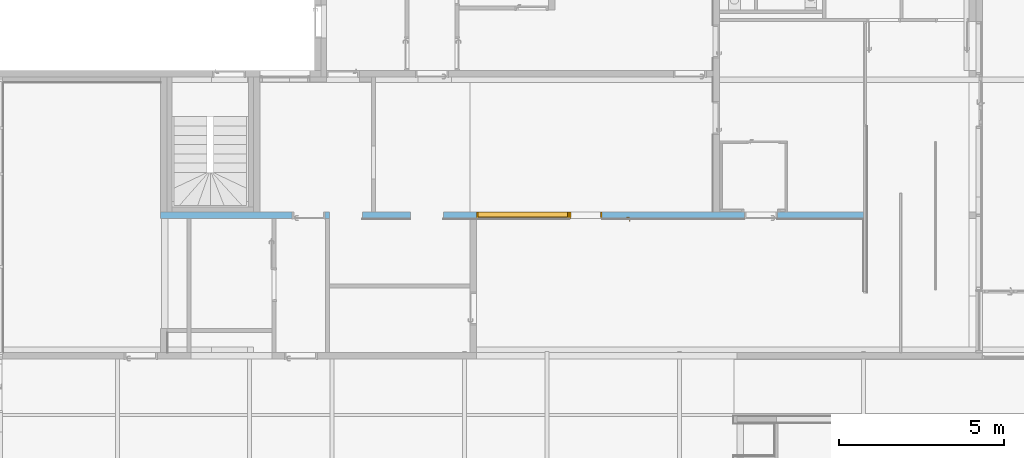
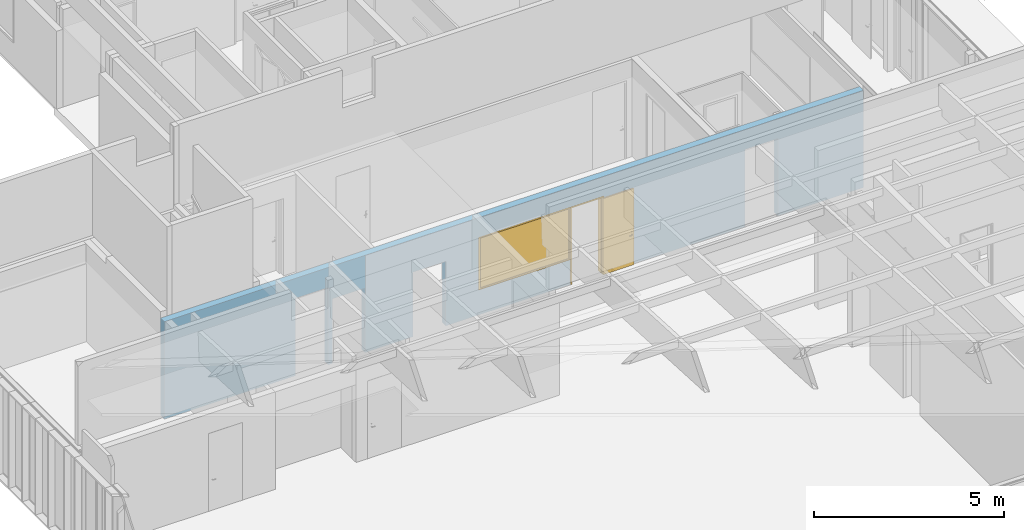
# One storey, part 188 of 240: 1 door, 1 window, 6 openings, plus 1 element that does not belong to this part.
"""IFC2X3 building model written with IfcOpenShell, lengths in centimetres."""

from ifc_helpers import new_model, entity, si_unit, converted_unit, derived_unit, direction, frame, frame_2d, origin, origin_2d_with_axis, place, context, subcontext, project, spatial, rectangle, extrude, faceted_brep, source, transform, mapped, material, material_list, layer, layer_set, layer_usage, type_object, type_shapes, element, fill, save


model = new_model("IFC2X3")

# Units and contexts
model_context = context("Model", 3, precision=0.001, world=origin(), true_north=direction((6.12303176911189e-17, 1.0)))
body_context = subcontext(model_context, "Body", "Model", "MODEL_VIEW")
ifc_project = project(units=[si_unit("LENGTHUNIT", "METRE", prefix="CENTI"), si_unit("AREAUNIT", "SQUARE_METRE"), si_unit("VOLUMEUNIT", "CUBIC_METRE"), converted_unit("PLANEANGLEUNIT", "DEGREE", entity("IfcRatioMeasure", 0.0174532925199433), si_unit("PLANEANGLEUNIT", "RADIAN"), dimensions=[0, 0, 0, 0, 0, 0, 0]), si_unit("MASSUNIT", "GRAM", prefix="KILO"), derived_unit("MASSDENSITYUNIT", [(si_unit("MASSUNIT", "GRAM", prefix="KILO"), 1), (si_unit("LENGTHUNIT", "METRE"), -3)]), si_unit("TIMEUNIT", "SECOND"), si_unit("FREQUENCYUNIT", "HERTZ"), si_unit("THERMODYNAMICTEMPERATUREUNIT", "DEGREE_CELSIUS"), derived_unit("THERMALTRANSMITTANCEUNIT", [(si_unit("MASSUNIT", "GRAM", prefix="KILO"), 1), (si_unit("THERMODYNAMICTEMPERATUREUNIT", "KELVIN"), -1), (si_unit("TIMEUNIT", "SECOND"), -3)]), derived_unit("VOLUMETRICFLOWRATEUNIT", [(si_unit("LENGTHUNIT", "METRE"), 3), (si_unit("TIMEUNIT", "SECOND"), -1)]), si_unit("ELECTRICCURRENTUNIT", "AMPERE"), si_unit("ELECTRICVOLTAGEUNIT", "VOLT"), si_unit("POWERUNIT", "WATT"), si_unit("FORCEUNIT", "NEWTON", prefix="KILO"), si_unit("ILLUMINANCEUNIT", "LUX"), si_unit("LUMINOUSFLUXUNIT", "LUMEN"), si_unit("LUMINOUSINTENSITYUNIT", "CANDELA"), derived_unit("USERDEFINED", [(si_unit("MASSUNIT", "GRAM", prefix="KILO"), -1), (si_unit("LENGTHUNIT", "METRE"), -2), (si_unit("TIMEUNIT", "SECOND"), 3), (si_unit("LUMINOUSFLUXUNIT", "LUMEN"), 1)]), derived_unit("LINEARVELOCITYUNIT", [(si_unit("LENGTHUNIT", "METRE"), 1), (si_unit("TIMEUNIT", "SECOND"), -1)]), si_unit("PRESSUREUNIT", "PASCAL"), derived_unit("USERDEFINED", [(si_unit("LENGTHUNIT", "METRE"), -2), (si_unit("MASSUNIT", "GRAM", prefix="KILO"), 1), (si_unit("TIMEUNIT", "SECOND"), -2)])], contexts=[model_context])

# Site, building, storey
site_placement = place(None, frame((-2781.94577612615, 7442.24238424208, 0.0)))
site = spatial("IfcSite", under=ifc_project, at=site_placement, Name="Default", CompositionType="ELEMENT")
building_placement = place(site_placement, origin())
building = spatial("IfcBuilding", under=site, at=building_placement, CompositionType="ELEMENT")
storey_placement = place(building_placement, origin())
storey = spatial("IfcBuildingStorey", under=building, at=storey_placement, Name="N00 - COO", CompositionType="ELEMENT", Elevation=0.0)

# Wall, openings, door, window
ifc_material_1 = material(Name="01 - Maçonnerie")
ifc_layer = layer(ifc_material_1, 20.0)
ifc_layer_set = layer_set([ifc_layer], Name="Mur de base:04 - Structure - béton - 20cm")
ifc_layer_usage = layer_usage(ifc_layer_set, "AXIS2", "NEGATIVE", 10.0)
wall_type = type_object("IfcWallType", Name="Mur de base:04 - Structure - béton - 20cm", PredefinedType="STANDARD", material=ifc_layer_set)
wall_placement = place(building_placement, frame((-9241.932180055, -3790.71966115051, 0.0), z_axis=(0.0, 0.0, 1.0), x_axis=(-1.0, 0.0, 0.0)))
wall = element("IfcWallStandardCase", 1, at=wall_placement, inside=storey, type_object=wall_type, material=ifc_layer_usage, Name="Mur de base:04 - Structure - béton - 20cm", ObjectType="Mur de base:04 - Structure - béton - 20cm", context=body_context, shape_type="SweptSolid", body=[
    extrude(rectangle(XDim=2125.55062791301, YDim=19.9999999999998, at=frame_2d((1062.77531395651, -2.05169214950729e-13), x_axis=(-1.0, 0.0))), origin(), (0.0, 0.0, 1.0), 313.0),
])
opening_1_placement = place(wall_placement, origin())
element("IfcOpeningElement", 2, at=opening_1_placement, cuts=wall, Name="Mur de base:04 - Structure - béton - 20cm", ObjectType="Opening", context=body_context, shape_type="SweptSolid", body=[
    extrude(rectangle(XDim=207.5, YDim=100.000000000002, at=origin_2d_with_axis()), frame((1565.06781692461, -10.0, 103.75), z_axis=(0.0, 1.0, 0.0), x_axis=(0.0, 0.0, -1.0)), (0.0, 0.0, 1.0), 19.9999999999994),
])
opening_2_placement = place(wall_placement, origin())
element("IfcOpeningElement", 3, at=opening_2_placement, cuts=wall, Name="Mur de base:04 - Structure - béton - 20cm", ObjectType="Opening", context=body_context, shape_type="SweptSolid", body=[
    extrude(rectangle(XDim=207.5, YDim=100.000000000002, at=frame_2d((0.0, 1.73372427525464e-12), x_axis=(1.0, 0.0))), frame((1320.06781692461, -10.0, 103.75), z_axis=(0.0, 1.0, 0.0), x_axis=(0.0, 0.0, -1.0)), (0.0, 0.0, 1.0), 19.9999999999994),
])
opening_3_placement = place(wall_placement, frame((1627.56781692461, -10.0, 0.0)))
element("IfcOpeningElement", 4, at=opening_3_placement, cuts=wall, Name="Int. Simple:PP simple (0.93m x 2.50m):1", ObjectType="Opening", context=body_context, shape_type="SweptSolid", body=[
    extrude(rectangle(XDim=248.500000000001, YDim=99.9999999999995, at=frame_2d((124.250000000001, 50.0), x_axis=(1.0, 0.0))), frame((0.0, 0.0, 0.0), z_axis=(0.0, 1.0, 0.0), x_axis=(0.0, 0.0, 1.0)), (0.0, 0.0, 1.0), 20.0),
])
opening_4_placement = place(wall_placement, frame((790.067816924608, -10.0, 0.0)))
opening_4 = element("IfcOpeningElement", 5, at=opening_4_placement, cuts=wall, Name="Int. Simple:PP (0.93m x 2.50m):1", ObjectType="Opening", context=body_context, shape_type="SweptSolid", body=[
    extrude(rectangle(XDim=248.500000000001, YDim=99.9999999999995, at=frame_2d((124.250000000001, 50.0), x_axis=(1.0, 0.0))), frame((0.0, 0.0, 0.0), z_axis=(0.0, 1.0, 0.0), x_axis=(0.0, 0.0, 1.0)), (0.0, 0.0, 1.0), 20.0),
])
opening_5_placement = place(wall_placement, frame((260.067816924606, -10.0, 0.0)))
element("IfcOpeningElement", 6, at=opening_5_placement, cuts=wall, Name="Int. Simple:PP (0.93m x 2.50m):1", ObjectType="Opening", context=body_context, shape_type="SweptSolid", body=[
    extrude(rectangle(XDim=248.500000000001, YDim=99.9999999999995, at=frame_2d((124.250000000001, 49.9999999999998), x_axis=(1.0, 0.0))), frame((0.0, 0.0, 0.0), z_axis=(0.0, 1.0, 0.0), x_axis=(0.0, 0.0, 1.0)), (0.0, 0.0, 1.0), 20.0),
])
opening_6_placement = place(wall_placement, frame((1170.03255804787, 10.0, 80.0)))
opening_6 = element("IfcOpeningElement", 7, at=opening_6_placement, cuts=wall, Name="châssis intérieur vitré:châssis intérieur vitré self  (h=2.22) 2:1", ObjectType="Opening", context=body_context, shape_type="SweptSolid", body=[
    extrude(rectangle(XDim=170.0, YDim=279.964741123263, at=frame_2d((84.9999999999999, 139.982370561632), x_axis=(1.0, 0.0))), frame((0.0, 0.0, 0.0), z_axis=(0.0, -1.0, 0.0), x_axis=(0.0, 0.0, 1.0)), (0.0, 0.0, 1.0), 20.0),
])
ifc_material_2 = material(Name="Finition Peinture - Blanc satiné")
ifc_material_3 = material(Name="Bois - Panneau de porte")
ifc_material_4 = material(Name="Bois - Cadre de porte")
ifc_material_list_1 = material_list([ifc_material_2, ifc_material_3, ifc_material_4])
ifc_material_list_2 = material_list([ifc_material_2, ifc_material_3, ifc_material_4])
door_style = type_object("IfcDoorStyle", Name="PP (0.93m x 2.50m)", ConstructionType="NOTDEFINED", OperationType="SINGLE_SWING_LEFT", ParameterTakesPrecedence=False, Sizeable=False, material=ifc_material_list_2)
shared_shape_1 = source(origin(), body_context, "Body", "Brep", [
    faceted_brep([(182.464723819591, 0.499999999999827, 86.6003983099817), (181.500000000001, 0.499999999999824, 87.0), (181.500000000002, 0.499999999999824, 108.0), (182.464723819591, 0.499999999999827, 108.399601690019), (183.500000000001, 0.49999999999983, 108.535898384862), (184.535276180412, 0.499999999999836, 108.399601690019), (185.500000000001, 0.499999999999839, 108.0), (185.500000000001, 0.499999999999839, 87.0), (184.535276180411, 0.499999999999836, 86.6003983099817), (183.500000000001, 0.49999999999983, 86.464101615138), (182.464723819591, 0.0, 108.399601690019), (181.500000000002, 0.0, 108.0), (181.500000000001, 0.0, 87.0), (182.464723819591, 0.0, 86.6003983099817), (183.500000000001, 0.0, 86.464101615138), (184.535276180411, 0.0, 86.6003983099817), (185.500000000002, 0.0, 87.0), (185.500000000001, 0.0, 108.0), (184.535276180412, 0.0, 108.399601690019), (183.500000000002, 0.0, 108.535898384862)], [[[0, 1, 2, 3, 4, 5, 6, 7, 8, 9]], [[10, 11, 12, 13, 14, 15, 16, 17, 18, 19]], [[16, 15, 8, 7]], [[8, 15, 14, 9]], [[14, 13, 0, 9]], [[13, 12, 1, 0]], [[2, 1, 12, 11]], [[11, 10, 3, 2]], [[3, 10, 19, 4]], [[19, 18, 5, 4]], [[18, 17, 6, 5]], [[7, 6, 17, 16]]]),
    faceted_brep([(182.464723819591, -4.0, 86.6003983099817), (181.500000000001, -4.0, 87.0), (181.500000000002, -4.0, 108.0), (182.464723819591, -4.0, 108.399601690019), (183.500000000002, -4.0, 108.535898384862), (184.535276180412, -4.0, 108.399601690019), (185.500000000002, -4.0, 108.0), (185.500000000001, -4.0, 87.0), (184.535276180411, -4.0, 86.6003983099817), (183.500000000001, -4.0, 86.464101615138), (182.464723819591, -4.50000000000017, 108.399601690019), (181.500000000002, -4.50000000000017, 108.0), (181.500000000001, -4.50000000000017, 87.0), (182.464723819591, -4.50000000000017, 86.6003983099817), (183.500000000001, -4.50000000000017, 86.464101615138), (184.535276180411, -4.50000000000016, 86.6003983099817), (185.500000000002, -4.50000000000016, 87.0), (185.500000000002, -4.50000000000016, 108.0), (184.535276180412, -4.50000000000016, 108.399601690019), (183.500000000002, -4.50000000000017, 108.535898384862)], [[[0, 1, 2, 3, 4, 5, 6, 7, 8, 9]], [[10, 11, 12, 13, 14, 15, 16, 17, 18, 19]], [[11, 10, 3, 2]], [[3, 10, 19, 4]], [[19, 18, 5, 4]], [[18, 17, 6, 5]], [[7, 6, 17, 16]], [[16, 15, 8, 7]], [[8, 15, 14, 9]], [[14, 13, 0, 9]], [[13, 12, 1, 0]], [[2, 1, 12, 11]]]),
    faceted_brep([(183.702529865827, 0.499999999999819, 100.778044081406), (183.297470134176, 0.499999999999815, 100.778044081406), (182.899999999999, 0.499999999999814, 100.699999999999), (182.9, 0.499999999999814, 99.3000000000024), (183.297470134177, 0.499999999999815, 99.2219559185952), (183.702529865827, 0.499999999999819, 99.221955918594), (184.100000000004, 0.499999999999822, 99.2999999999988), (184.100000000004, 0.499999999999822, 100.7), (184.100000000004, 3.26509507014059, 100.7), (183.702529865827, 3.10045754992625, 100.778044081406), (182.097641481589, 4.70534593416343, 100.778044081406), (181.929860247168, 4.30028620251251, 100.778044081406), (183.297470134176, 2.93267631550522, 100.778044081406), (182.899999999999, 2.76803879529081, 100.7), (182.899999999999, 2.7680387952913, 99.3000000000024), (183.297470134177, 2.93267631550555, 99.2219559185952), (181.929860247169, 4.3002862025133, 99.2219559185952), (182.09764148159, 4.70534593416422, 99.221955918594), (183.702529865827, 3.10045754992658, 99.221955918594), (184.100000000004, 3.26509507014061, 99.2999999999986), (182.262279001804, 5.10281606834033, 100.7), (181.765222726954, 3.90281606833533, 100.7), (181.765222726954, 3.90281606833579, 99.3000000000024), (182.262279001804, 5.10281606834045, 99.2999999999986), (173.498135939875, 5.1028160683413, 99.2999999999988), (173.498135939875, 4.70534593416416, 99.221955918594), (173.498135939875, 4.30028620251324, 99.2219559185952), (173.498135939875, 3.90281606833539, 99.3000000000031), (173.498135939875, 3.90281606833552, 100.7), (173.498135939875, 4.30028620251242, 100.778044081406), (173.498135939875, 4.70534593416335, 100.778044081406), (173.498135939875, 5.10281606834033, 100.699999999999), (178.26923027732, 5.10281606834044, 100.7), (177.713998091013, 4.50281606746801, 100.78786867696), (177.631679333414, 3.90281606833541, 100.7), (177.631679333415, 3.9028160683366, 99.3000000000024), (177.713998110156, 4.50281607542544, 99.2121313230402), (178.269229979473, 5.10281606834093, 99.2999999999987)], [[[0, 1, 2, 3, 4, 5, 6, 7]], [[8, 9, 0, 7]], [[9, 10, 11, 12, 1, 0]], [[12, 13, 2, 1]], [[3, 2, 13, 14]], [[14, 15, 4, 3]], [[15, 16, 17, 18, 5, 4]], [[18, 19, 6, 5]], [[7, 6, 19, 8]], [[20, 10, 9, 8]], [[11, 21, 13, 12]], [[14, 13, 21, 22]], [[22, 16, 15, 14]], [[17, 23, 19, 18]], [[8, 19, 23, 20]], [[24, 25, 26, 27, 28, 29, 30, 31]], [[32, 30, 33]], [[31, 30, 32]], [[10, 20, 32]], [[33, 34, 11]], [[21, 11, 34]], [[34, 29, 28]], [[30, 29, 33]], [[29, 34, 33]], [[10, 32, 33]], [[10, 33, 11]], [[22, 21, 34, 28, 27, 35]], [[35, 26, 36]], [[37, 36, 25]], [[22, 35, 16]], [[35, 27, 26]], [[24, 37, 25]], [[23, 17, 37]], [[37, 17, 36]], [[17, 16, 36]], [[16, 35, 36]], [[25, 36, 26]], [[20, 23, 37, 24, 31, 32]]]),
    faceted_brep([(183.702529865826, -4.50000000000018, 100.778044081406), (184.100000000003, -4.50000000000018, 100.7), (184.100000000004, -4.50000000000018, 99.2999999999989), (183.702529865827, -4.50000000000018, 99.221955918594), (183.297470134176, -4.50000000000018, 99.2219559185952), (182.899999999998, -4.50000000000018, 99.3000000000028), (182.899999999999, -4.50000000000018, 100.7), (183.297470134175, -4.50000000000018, 100.778044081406), (182.899999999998, -6.74852045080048, 99.3000000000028), (182.899999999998, -6.74852045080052, 100.7), (183.297470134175, -6.91315797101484, 100.778044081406), (181.916109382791, -8.29451872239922, 100.778044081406), (182.083890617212, -8.69957845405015, 100.778044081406), (183.702529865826, -7.08093920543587, 100.778044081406), (184.100000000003, -7.24557672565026, 100.7), (184.100000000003, -7.24557672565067, 99.2999999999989), (183.702529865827, -7.08093920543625, 99.221955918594), (182.083890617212, -8.69957845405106, 99.221955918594), (181.916109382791, -8.29451872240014, 99.2219559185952), (183.297470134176, -6.91315797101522, 99.2219559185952), (181.751471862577, -7.89704858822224, 99.3000000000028), (181.751471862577, -7.89704858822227, 100.7), (182.248528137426, -9.09704858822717, 100.7), (182.248528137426, -9.09704858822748, 99.2999999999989), (173.495421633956, -7.89704858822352, 99.3000000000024), (173.495421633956, -8.29451872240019, 99.2219559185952), (173.495421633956, -8.69957845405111, 99.221955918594), (173.495421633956, -9.09704858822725, 99.2999999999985), (173.495421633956, -9.09704858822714, 100.7), (173.495421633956, -8.69957845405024, 100.778044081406), (173.495421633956, -8.29451872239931, 100.778044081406), (173.495421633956, -7.89704858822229, 100.7), (177.623447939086, -7.89704858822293, 99.3000000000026), (177.623446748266, -7.89704858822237, 100.7), (177.705765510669, -8.49704858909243, 100.78786867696), (178.255479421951, -9.09704858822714, 100.7), (178.255479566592, -9.09704858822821, 99.2999999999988), (177.705765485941, -8.49704858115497, 99.2121313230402)], [[[0, 1, 2, 3, 4, 5, 6, 7]], [[6, 5, 8, 9]], [[9, 10, 7, 6]], [[10, 11, 12, 13, 0, 7]], [[13, 14, 1, 0]], [[2, 1, 14, 15]], [[15, 16, 3, 2]], [[16, 17, 18, 19, 4, 3]], [[19, 8, 5, 4]], [[9, 8, 20, 21]], [[21, 11, 10, 9]], [[12, 22, 14, 13]], [[15, 14, 22, 23]], [[23, 17, 16, 15]], [[18, 20, 8, 19]], [[24, 25, 26, 27, 28, 29, 30, 31]], [[21, 20, 32, 24, 31, 33]], [[33, 30, 34]], [[35, 34, 29]], [[21, 33, 11]], [[33, 31, 30]], [[28, 35, 29]], [[22, 12, 35]], [[35, 12, 34]], [[12, 11, 34]], [[11, 33, 34]], [[29, 34, 30]], [[22, 35, 28, 27, 36, 23]], [[36, 26, 37]], [[27, 26, 36]], [[17, 23, 36]], [[37, 32, 18]], [[20, 18, 32]], [[32, 25, 24]], [[26, 25, 37]], [[25, 32, 37]], [[17, 36, 37]], [[17, 37, 18]]]),
    faceted_brep([(189.500000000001, -4.0, 245.0), (96.5000000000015, -4.0, 245.0), (96.5000000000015, -4.0, 0.0), (189.500000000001, -4.0, 0.0), (189.500000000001, 0.0, 245.0), (189.500000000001, 0.0, 0.0), (96.5000000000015, 0.0, 0.0), (96.5000000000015, 0.0, 245.0)], [[[0, 1, 2, 3]], [[4, 5, 6, 7]], [[1, 0, 4, 7]], [[2, 1, 7, 6]], [[3, 2, 6, 5]], [[0, 3, 5, 4]]]),
    faceted_brep([(0.0, 20.0, 0.0), (-1.50000000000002, 20.0, 0.0), (-1.50000000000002, 20.5000000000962, 0.0), (5.0, 20.5000000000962, 0.0), (5.0, 4.0, 0.0), (3.50000000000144, 4.0, 0.0), (3.50000000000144, -0.500000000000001, 0.0), (-1.50000000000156, -0.500000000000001, 0.0), (-1.50000000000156, 0.0, 0.0), (0.0, 0.0, 0.0), (0.0, 20.0, 248.500000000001), (100.0, 20.0, 248.500000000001), (100.0, 20.0, 0.0), (101.5, 20.0, 0.0), (101.5, 20.0, 250.0), (-1.50000000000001, 20.0, 250.0), (-1.50000000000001, 20.5000000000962, 250.0), (101.5, 20.5000000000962, 250.0), (101.5, 20.5000000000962, 0.0), (95.0, 20.5000000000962, 0.0), (95.0, 20.5000000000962, 243.5), (5.0, 20.5000000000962, 243.5), (5.0, 4.0, 243.5), (95.0, 4.0, 243.5), (95.0, 4.0, 0.0), (96.499999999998, 4.0, 0.0), (96.499999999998, 4.0, 245.0), (3.50000000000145, 4.0, 245.0), (3.50000000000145, -0.500000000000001, 245.0), (96.499999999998, -0.500000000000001, 245.0), (96.499999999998, -0.500000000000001, 0.0), (101.500000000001, -0.500000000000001, 0.0), (101.500000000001, -0.500000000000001, 250.0), (-1.50000000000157, -0.500000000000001, 250.0), (-1.50000000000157, 0.0, 250.0), (101.500000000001, 0.0, 250.0), (101.500000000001, 0.0, 0.0), (100.0, 0.0, 0.0), (100.0, 0.0, 248.500000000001), (0.0, 0.0, 248.500000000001)], [[[0, 1, 2, 3, 4, 5, 6, 7, 8, 9]], [[1, 0, 10, 11, 12, 13, 14, 15]], [[2, 1, 15, 16]], [[3, 2, 16, 17, 18, 19, 20, 21]], [[3, 21, 22, 4]], [[5, 4, 22, 23, 24, 25, 26, 27]], [[5, 27, 28, 6]], [[7, 6, 28, 29, 30, 31, 32, 33]], [[8, 7, 33, 34]], [[9, 8, 34, 35, 36, 37, 38, 39]], [[0, 9, 39, 10]], [[11, 38, 37, 12]], [[12, 37, 36, 31, 30, 25, 24, 19, 18, 13]], [[17, 14, 13, 18]], [[23, 20, 19, 24]], [[29, 26, 25, 30]], [[35, 32, 31, 36]], [[16, 15, 14, 17]], [[22, 21, 20, 23]], [[28, 27, 26, 29]], [[34, 33, 32, 35]], [[10, 39, 38, 11]]]),
])
type_shapes(door_style, [shared_shape_1])
door_placement = place(opening_4_placement, frame((100.000003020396, 20.0, 0.0), z_axis=(0.0, 0.0, 1.0), x_axis=(-1.0, 0.0, 0.0)))
door = element("IfcDoor", 8, at=door_placement, inside=storey, type_object=door_style, material=ifc_material_list_1, Name="Int. Simple:PP (0.93m x 2.50m)", ObjectType="Int. Simple:PP (0.93m x 2.50m)", OverallHeight=248.500000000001, OverallWidth=99.9999999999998, context=body_context, shape_type="MappedRepresentation", body=[
    mapped(shared_shape_1, transform((0.0, 0.0, 0.0), scale=1.0)),
])
fill(opening_4, door)
ifc_material_5 = material(Name="Verre")
ifc_material_6 = material(Name="huisserie bois")
ifc_material_list_3 = material_list([ifc_material_5, ifc_material_6])
ifc_material_list_4 = material_list([ifc_material_5, ifc_material_6])
window_style = type_object("IfcWindowStyle", Name="châssis intérieur vitré self  (h=2.22) 2", ConstructionType="NOTDEFINED", OperationType="NOTDEFINED", ParameterTakesPrecedence=False, Sizeable=False, material=ifc_material_list_4)
shared_shape_2 = source(origin(), body_context, "Body", "Brep", [
    faceted_brep([(3.0, 5.0, 167.0), (276.964741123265, 5.0, 167.0), (276.964741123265, 5.0, 3.0), (3.0, 5.0, 3.0), (3.0, 2.0, 3.0), (3.0, 2.0, 167.0), (276.964741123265, 2.0, 3.0), (276.964741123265, 2.0, 167.0)], [[[0, 1, 2, 3]], [[3, 4, 5, 0]], [[2, 6, 4, 3]], [[1, 7, 6, 2]], [[5, 4, 6, 7]], [[0, 5, 7, 1]]]),
    faceted_brep([(3.0, 2.0, 167.0), (3.0, 2.0, 3.0), (3.0, 0.0, 3.0), (3.0, 0.0, 167.0), (276.964741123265, 0.0, 3.0), (276.964741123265, 0.0, 167.0), (5.0, 0.0, 5.0), (5.0, 0.0, 165.0), (274.964741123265, 0.0, 165.0), (274.964741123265, 0.0, 5.0), (276.964741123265, 2.0, 3.0), (276.964741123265, 2.0, 167.0), (5.0, 2.0, 165.0), (5.0, 2.0, 5.0), (274.964741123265, 2.0, 5.0), (274.964741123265, 2.0, 165.0)], [[[0, 1, 2, 3]], [[3, 2, 4, 5], [6, 7, 8, 9]], [[1, 10, 4, 2]], [[1, 0, 11, 10], [12, 13, 14, 15]], [[7, 6, 13, 12]], [[6, 9, 14, 13]], [[10, 11, 5, 4]], [[9, 8, 15, 14]], [[11, 0, 3, 5]], [[8, 7, 12, 15]]]),
    faceted_brep([(5.0, 5.0, 165.0), (5.0, 5.0, 5.0), (5.0, 20.0, 5.0), (5.0, 20.0, 165.0), (274.964741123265, 20.0, 5.0), (274.964741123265, 20.0, 165.0), (0.0, 20.0, 0.0), (0.0, 20.0, 170.0), (279.964741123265, 20.0, 170.0), (279.964741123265, 20.0, 0.0), (274.964741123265, 5.0, 5.0), (274.964741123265, 5.0, 165.0), (3.0, 5.0, 167.0), (3.0, 5.0, 3.0), (276.964741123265, 5.0, 3.0), (276.964741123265, 5.0, 167.0), (3.0, 0.0, 167.0), (3.0, 0.0, 3.0), (276.964741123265, 0.0, 3.0), (276.964741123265, 0.0, 167.0), (0.0, 0.0, 170.0), (0.0, 0.0, 0.0), (279.964741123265, 0.0, 0.0), (279.964741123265, 0.0, 170.0)], [[[0, 1, 2, 3]], [[3, 2, 4, 5], [6, 7, 8, 9]], [[1, 10, 4, 2]], [[1, 0, 11, 10], [12, 13, 14, 15]], [[16, 17, 13, 12]], [[17, 18, 14, 13]], [[17, 16, 19, 18], [20, 21, 22, 23]], [[7, 6, 21, 20]], [[6, 9, 22, 21]], [[10, 11, 5, 4]], [[18, 19, 15, 14]], [[9, 8, 23, 22]], [[11, 0, 3, 5]], [[19, 16, 12, 15]], [[8, 7, 20, 23]]], outer=[[True], [False, True], [True], [False, True], [True], [True], [False, True], [True], [True], [True], [True], [True], [True], [True], [True]]),
])
type_shapes(window_style, [shared_shape_2])
window_placement = place(opening_6_placement, frame((0.0, 0.0, 0.0), z_axis=(0.0, 0.0, 1.0), x_axis=(-1.0, 0.0, 0.0)))
window = element("IfcWindow", 9, at=window_placement, inside=storey, type_object=window_style, material=ifc_material_list_3, Name="châssis intérieur vitré:châssis intérieur vitré self  (h=2.22) 2", ObjectType="châssis intérieur vitré:châssis intérieur vitré self  (h=2.22) 2", OverallHeight=170.0, OverallWidth=279.964741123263, context=body_context, shape_type="MappedRepresentation", body=[
    mapped(shared_shape_2, transform((0.0, 0.0, 0.0), scale=1.0)),
])
fill(opening_6, window)

save(model, "model.ifc")
